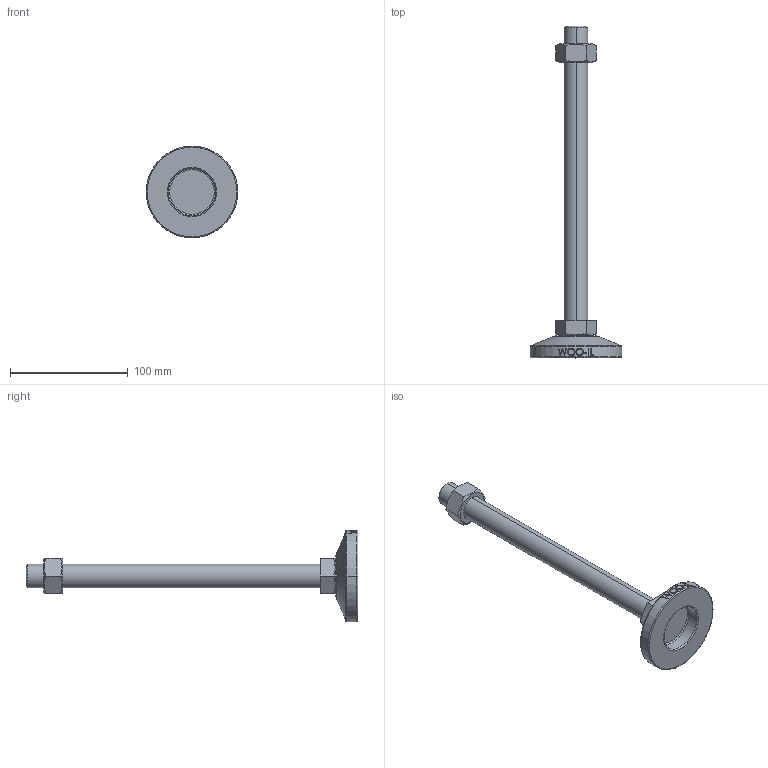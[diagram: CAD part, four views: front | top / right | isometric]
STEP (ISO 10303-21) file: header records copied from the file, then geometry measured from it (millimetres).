
FILE_DESCRIPTION (( 'STEP AP214' ), '1' );
FILE_NAME ('MFT78-M20-250.step', '2021-03-29T04:44:49', ( '' ), ( '' ), 'SwSTEP 2.0', 'SolidWorks 2019', '' );
FILE_SCHEMA (( 'AUTOMOTIVE_DESIGN' ));
Length unit declared in the file: millimetre
Products named in the file (2): MFT78-M20-250
Bounding box: 78 x 282 x 78 mm (x, y, z)
Volume: 152516.3 mm3; surface area: 35561.4 mm2
Topology: 3 solids, 3 shells, 106 faces, 243 edges, 154 vertices
Faces by surface type: plane 48, cylinder 18, bspline 16, cone 14, torus 10
Entity records: 4518 total; most frequent: CARTESIAN_POINT 2175, ORIENTED_EDGE 486, DIRECTION 439, EDGE_CURVE 243, AXIS2_PLACEMENT_3D 170, VERTEX_POINT 154, EDGE_LOOP 119, ADVANCED_FACE 106
